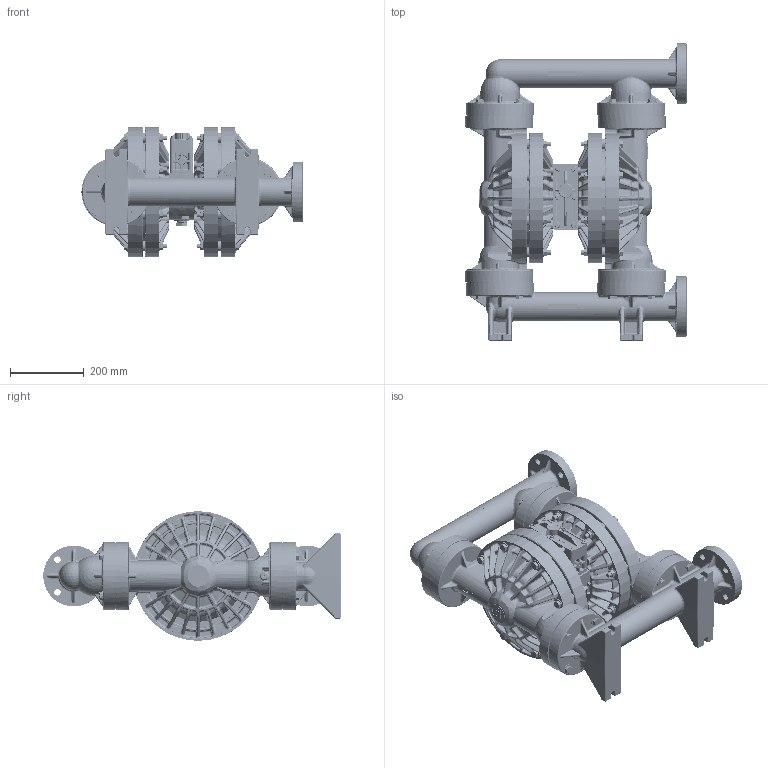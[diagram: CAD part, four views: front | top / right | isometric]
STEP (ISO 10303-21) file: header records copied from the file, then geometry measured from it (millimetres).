
FILE_DESCRIPTION (( 'STEP AP214' ), '1' );
FILE_NAME ('P800_Advanced_PVDF_DIN.stp.STEP', '2026-07-22T10:19:22', ( '' ), ( '' ), 'SwSTEP 2.0', 'SolidWorks 2022', '' );
FILE_SCHEMA (( 'AUTOMOTIVE_DESIGN' ));
Products named in the file (1): P800_Advanced_PVDF_DIN.stp
Bounding box: 599.63 x 806.83 x 353.06 mm (x, y, z)
Volume: 40359086.3 mm3; surface area: 2213576 mm2
Topology: 1 solids, 1 shells, 12287 faces, 29326 edges, 17247 vertices
Faces by surface type: bspline 4717, plane 3268, cylinder 1277, cone 1117, torus 1073, sphere 835
Entity records: 754475 total; most frequent: CARTESIAN_POINT 509163, ORIENTED_EDGE 58420, DIRECTION 41378, EDGE_CURVE 29210, VERTEX_POINT 17204, AXIS2_PLACEMENT_3D 16702, EDGE_LOOP 12618, FACE_OUTER_BOUND 12287
